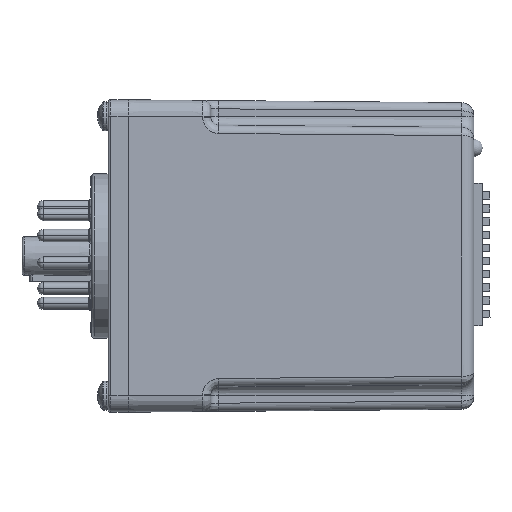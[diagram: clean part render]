
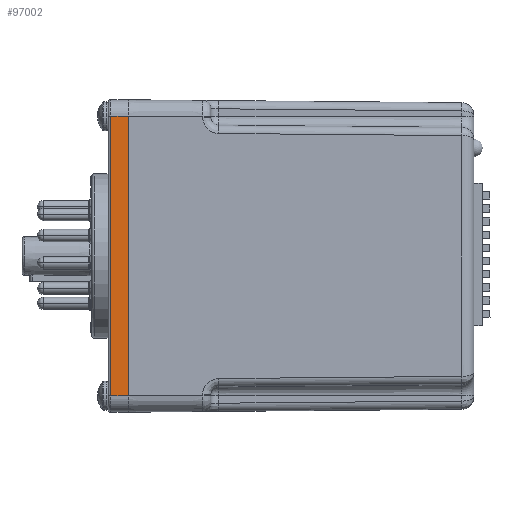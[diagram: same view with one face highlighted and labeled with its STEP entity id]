
A CAD part, left-side view. The second image highlights one B-rep face of the part: STEP entity #97002.
In plain terms, the highlighted planar face has unit normal (-1, 0, 0).
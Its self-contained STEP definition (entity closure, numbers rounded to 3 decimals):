
#75119 = CYLINDRICAL_SURFACE('',#75120,0.508);
#75120 = AXIS2_PLACEMENT_3D('',#75121,#75122,#75123);
#75121 = CARTESIAN_POINT('',(-21.717,140.335,-30.163));
#75122 = DIRECTION('',(0.,0.,1.));
#75123 = DIRECTION('',(1.,0.,0.));
#75706 = PLANE('',#75707);
#75707 = AXIS2_PLACEMENT_3D('',#75708,#75709,#75710);
#75708 = CARTESIAN_POINT('',(-22.225,136.881,-30.163));
#75709 = DIRECTION('',(0.,1.,0.));
#75710 = DIRECTION('',(1.,0.,-0.));
#82195 = VERTEX_POINT('',#82196);
#82196 = CARTESIAN_POINT('',(-22.225,136.881,26.988));
#82215 = CYLINDRICAL_SURFACE('',#82216,3.175);
#82216 = AXIS2_PLACEMENT_3D('',#82217,#82218,#82219);
#82217 = CARTESIAN_POINT('',(-19.05,136.881,26.988));
#82218 = DIRECTION('',(0.,1.,0.));
#82219 = DIRECTION('',(0.,0.,-1.));
#82227 = EDGE_CURVE('',#82228,#82195,#82230,.T.);
#82228 = VERTEX_POINT('',#82229);
#82229 = CARTESIAN_POINT('',(-22.225,136.881,-26.988));
#82230 = SURFACE_CURVE('',#82231,(#82235,#82242),.PCURVE_S1.);
#82231 = LINE('',#82232,#82233);
#82232 = CARTESIAN_POINT('',(-22.225,136.881,-30.163));
#82233 = VECTOR('',#82234,1.);
#82234 = DIRECTION('',(0.,-0.,1.));
#82235 = PCURVE('',#75706,#82236);
#82236 = DEFINITIONAL_REPRESENTATION('',(#82237),#82241);
#82237 = LINE('',#82238,#82239);
#82238 = CARTESIAN_POINT('',(0.,0.));
#82239 = VECTOR('',#82240,1.);
#82240 = DIRECTION('',(0.,-1.));
#82241 = ( GEOMETRIC_REPRESENTATION_CONTEXT(2) 
PARAMETRIC_REPRESENTATION_CONTEXT() REPRESENTATION_CONTEXT('2D SPACE',''
  ) );
#82242 = PCURVE('',#82243,#82248);
#82243 = PLANE('',#82244);
#82244 = AXIS2_PLACEMENT_3D('',#82245,#82246,#82247);
#82245 = CARTESIAN_POINT('',(-22.225,136.881,-30.163));
#82246 = DIRECTION('',(1.,0.,0.));
#82247 = DIRECTION('',(0.,0.,-1.));
#82248 = DEFINITIONAL_REPRESENTATION('',(#82249),#82253);
#82249 = LINE('',#82250,#82251);
#82250 = CARTESIAN_POINT('',(0.,0.));
#82251 = VECTOR('',#82252,1.);
#82252 = DIRECTION('',(-1.,0.));
#82253 = ( GEOMETRIC_REPRESENTATION_CONTEXT(2) 
PARAMETRIC_REPRESENTATION_CONTEXT() REPRESENTATION_CONTEXT('2D SPACE',''
  ) );
#82274 = CYLINDRICAL_SURFACE('',#82275,3.175);
#82275 = AXIS2_PLACEMENT_3D('',#82276,#82277,#82278);
#82276 = CARTESIAN_POINT('',(-19.05,140.843,-26.988));
#82277 = DIRECTION('',(0.,-1.,0.));
#82278 = DIRECTION('',(0.,0.,1.));
#97002 = ADVANCED_FACE('',(#97003),#82243,.F.);
#97003 = FACE_BOUND('',#97004,.T.);
#97004 = EDGE_LOOP('',(#97005,#97028,#97051,#97072));
#97005 = ORIENTED_EDGE('',*,*,#97006,.T.);
#97006 = EDGE_CURVE('',#82195,#97007,#97009,.T.);
#97007 = VERTEX_POINT('',#97008);
#97008 = CARTESIAN_POINT('',(-22.225,140.335,26.988));
#97009 = SURFACE_CURVE('',#97010,(#97014,#97021),.PCURVE_S1.);
#97010 = LINE('',#97011,#97012);
#97011 = CARTESIAN_POINT('',(-22.225,136.881,26.988));
#97012 = VECTOR('',#97013,1.);
#97013 = DIRECTION('',(0.,1.,0.));
#97014 = PCURVE('',#82243,#97015);
#97015 = DEFINITIONAL_REPRESENTATION('',(#97016),#97020);
#97016 = LINE('',#97017,#97018);
#97017 = CARTESIAN_POINT('',(-57.15,0.));
#97018 = VECTOR('',#97019,1.);
#97019 = DIRECTION('',(0.,1.));
#97020 = ( GEOMETRIC_REPRESENTATION_CONTEXT(2) 
PARAMETRIC_REPRESENTATION_CONTEXT() REPRESENTATION_CONTEXT('2D SPACE',''
  ) );
#97021 = PCURVE('',#82215,#97022);
#97022 = DEFINITIONAL_REPRESENTATION('',(#97023),#97027);
#97023 = LINE('',#97024,#97025);
#97024 = CARTESIAN_POINT('',(1.571,0.));
#97025 = VECTOR('',#97026,1.);
#97026 = DIRECTION('',(0.,1.));
#97027 = ( GEOMETRIC_REPRESENTATION_CONTEXT(2) 
PARAMETRIC_REPRESENTATION_CONTEXT() REPRESENTATION_CONTEXT('2D SPACE',''
  ) );
#97028 = ORIENTED_EDGE('',*,*,#97029,.T.);
#97029 = EDGE_CURVE('',#97007,#97030,#97032,.T.);
#97030 = VERTEX_POINT('',#97031);
#97031 = CARTESIAN_POINT('',(-22.225,140.335,-26.988));
#97032 = SURFACE_CURVE('',#97033,(#97037,#97044),.PCURVE_S1.);
#97033 = LINE('',#97034,#97035);
#97034 = CARTESIAN_POINT('',(-22.225,140.335,-30.163));
#97035 = VECTOR('',#97036,1.);
#97036 = DIRECTION('',(0.,0.,-1.));
#97037 = PCURVE('',#82243,#97038);
#97038 = DEFINITIONAL_REPRESENTATION('',(#97039),#97043);
#97039 = LINE('',#97040,#97041);
#97040 = CARTESIAN_POINT('',(0.,3.454));
#97041 = VECTOR('',#97042,1.);
#97042 = DIRECTION('',(1.,0.));
#97043 = ( GEOMETRIC_REPRESENTATION_CONTEXT(2) 
PARAMETRIC_REPRESENTATION_CONTEXT() REPRESENTATION_CONTEXT('2D SPACE',''
  ) );
#97044 = PCURVE('',#75119,#97045);
#97045 = DEFINITIONAL_REPRESENTATION('',(#97046),#97050);
#97046 = LINE('',#97047,#97048);
#97047 = CARTESIAN_POINT('',(3.142,0.));
#97048 = VECTOR('',#97049,1.);
#97049 = DIRECTION('',(0.,-1.));
#97050 = ( GEOMETRIC_REPRESENTATION_CONTEXT(2) 
PARAMETRIC_REPRESENTATION_CONTEXT() REPRESENTATION_CONTEXT('2D SPACE',''
  ) );
#97051 = ORIENTED_EDGE('',*,*,#97052,.T.);
#97052 = EDGE_CURVE('',#97030,#82228,#97053,.T.);
#97053 = SURFACE_CURVE('',#97054,(#97058,#97065),.PCURVE_S1.);
#97054 = LINE('',#97055,#97056);
#97055 = CARTESIAN_POINT('',(-22.225,136.881,-26.988));
#97056 = VECTOR('',#97057,1.);
#97057 = DIRECTION('',(0.,-1.,0.));
#97058 = PCURVE('',#82243,#97059);
#97059 = DEFINITIONAL_REPRESENTATION('',(#97060),#97064);
#97060 = LINE('',#97061,#97062);
#97061 = CARTESIAN_POINT('',(-3.175,0.));
#97062 = VECTOR('',#97063,1.);
#97063 = DIRECTION('',(0.,-1.));
#97064 = ( GEOMETRIC_REPRESENTATION_CONTEXT(2) 
PARAMETRIC_REPRESENTATION_CONTEXT() REPRESENTATION_CONTEXT('2D SPACE',''
  ) );
#97065 = PCURVE('',#82274,#97066);
#97066 = DEFINITIONAL_REPRESENTATION('',(#97067),#97071);
#97067 = LINE('',#97068,#97069);
#97068 = CARTESIAN_POINT('',(1.571,3.962));
#97069 = VECTOR('',#97070,1.);
#97070 = DIRECTION('',(0.,1.));
#97071 = ( GEOMETRIC_REPRESENTATION_CONTEXT(2) 
PARAMETRIC_REPRESENTATION_CONTEXT() REPRESENTATION_CONTEXT('2D SPACE',''
  ) );
#97072 = ORIENTED_EDGE('',*,*,#82227,.T.);
